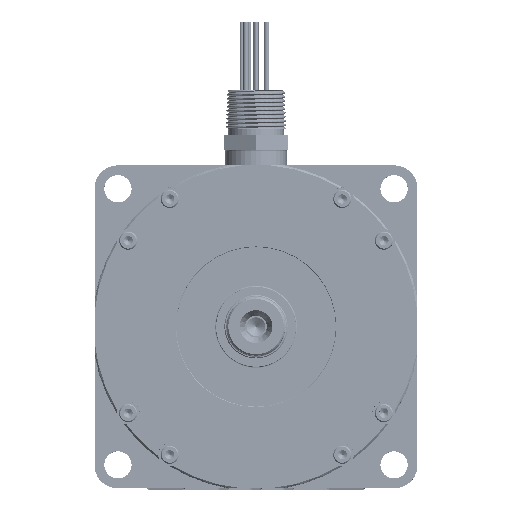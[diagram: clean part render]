
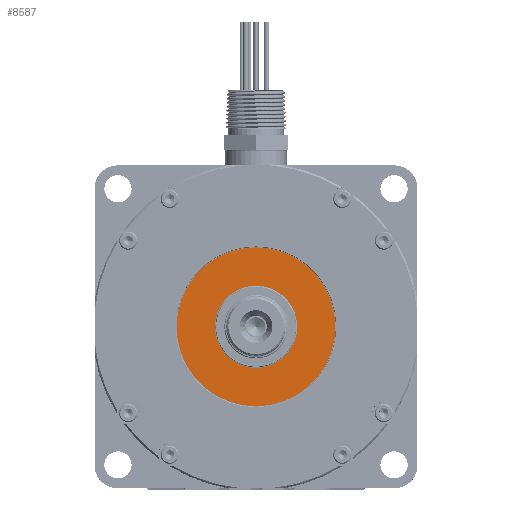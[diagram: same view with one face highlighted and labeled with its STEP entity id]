
A CAD part, top view. The second image highlights one B-rep face of the part: STEP entity #8587.
In plain terms, the highlighted planar face has unit normal (0, 0, 1).
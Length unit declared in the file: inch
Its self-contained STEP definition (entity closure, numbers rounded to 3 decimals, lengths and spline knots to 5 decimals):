
#2348 = DIRECTION ( 'NONE',  ( 1., 0., 0. ) ) ;
#8587 = ADVANCED_FACE ( 'NONE', ( #220339, #206714 ), #152472, .F. ) ;
#11239 = CARTESIAN_POINT ( 'NONE',  ( 0., 0., -2.4 ) ) ;
#20644 = VERTEX_POINT ( 'NONE', #130445 ) ;
#21791 = CARTESIAN_POINT ( 'NONE',  ( 0.89091, 0., -2.4 ) ) ;
#23774 = DIRECTION ( 'NONE',  ( 1., 0., 0. ) ) ;
#28946 = ORIENTED_EDGE ( 'NONE', *, *, #187659, .F. ) ;
#37778 = EDGE_LOOP ( 'NONE', ( #71795, #28946 ) ) ;
#39474 = CIRCLE ( 'NONE', #223678, 1.722 ) ;
#48442 = DIRECTION ( 'NONE',  ( -1., 0., 0. ) ) ;
#49566 = CARTESIAN_POINT ( 'NONE',  ( 0., 0.89091, -2.4 ) ) ;
#49817 = ORIENTED_EDGE ( 'NONE', *, *, #69579, .T. ) ;
#58492 = CARTESIAN_POINT ( 'NONE',  ( 0., 0., -2.4 ) ) ;
#63256 = DIRECTION ( 'NONE',  ( 0., 0., 1. ) ) ;
#67851 = VERTEX_POINT ( 'NONE', #111348 ) ;
#69579 = EDGE_CURVE ( 'NONE', #67851, #20644, #79164, .T. ) ;
#71795 = ORIENTED_EDGE ( 'NONE', *, *, #85451, .F. ) ;
#76979 = VERTEX_POINT ( 'NONE', #21791 ) ;
#77444 = AXIS2_PLACEMENT_3D ( 'NONE', #49566, #137718, #48442 ) ;
#79164 = CIRCLE ( 'NONE', #220104, 1.722 ) ;
#79171 = AXIS2_PLACEMENT_3D ( 'NONE', #11239, #63256, #23774 ) ;
#85451 = EDGE_CURVE ( 'NONE', #76979, #204306, #176718, .T. ) ;
#95675 = EDGE_LOOP ( 'NONE', ( #150766, #49817 ) ) ;
#103307 = CARTESIAN_POINT ( 'NONE',  ( 0., 0., -2.4 ) ) ;
#111348 = CARTESIAN_POINT ( 'NONE',  ( -1.722, 0., -2.4 ) ) ;
#113884 = DIRECTION ( 'NONE',  ( 0., 0., 1. ) ) ;
#124487 = CARTESIAN_POINT ( 'NONE',  ( 0., 0., -2.4 ) ) ;
#130445 = CARTESIAN_POINT ( 'NONE',  ( 1.722, 0., -2.4 ) ) ;
#131623 = EDGE_CURVE ( 'NONE', #20644, #67851, #39474, .T. ) ;
#137197 = DIRECTION ( 'NONE',  ( 1., 0., 0. ) ) ;
#137718 = DIRECTION ( 'NONE',  ( 0., 0., -1. ) ) ;
#138078 = DIRECTION ( 'NONE',  ( 0., 0., 1. ) ) ;
#150766 = ORIENTED_EDGE ( 'NONE', *, *, #131623, .T. ) ;
#152472 = PLANE ( 'NONE',  #77444 ) ;
#154194 = CIRCLE ( 'NONE', #172135, 0.89091 ) ;
#161646 = CARTESIAN_POINT ( 'NONE',  ( -0.89091, 0., -2.4 ) ) ;
#172135 = AXIS2_PLACEMENT_3D ( 'NONE', #58492, #113884, #182871 ) ;
#176718 = CIRCLE ( 'NONE', #79171, 0.89091 ) ;
#182871 = DIRECTION ( 'NONE',  ( 1., 0., 0. ) ) ;
#187659 = EDGE_CURVE ( 'NONE', #204306, #76979, #154194, .T. ) ;
#204306 = VERTEX_POINT ( 'NONE', #161646 ) ;
#206714 = FACE_OUTER_BOUND ( 'NONE', #95675, .T. ) ;
#207315 = DIRECTION ( 'NONE',  ( 0., 0., 1. ) ) ;
#220104 = AXIS2_PLACEMENT_3D ( 'NONE', #124487, #138078, #2348 ) ;
#220339 = FACE_BOUND ( 'NONE', #37778, .T. ) ;
#223678 = AXIS2_PLACEMENT_3D ( 'NONE', #103307, #207315, #137197 ) ;
